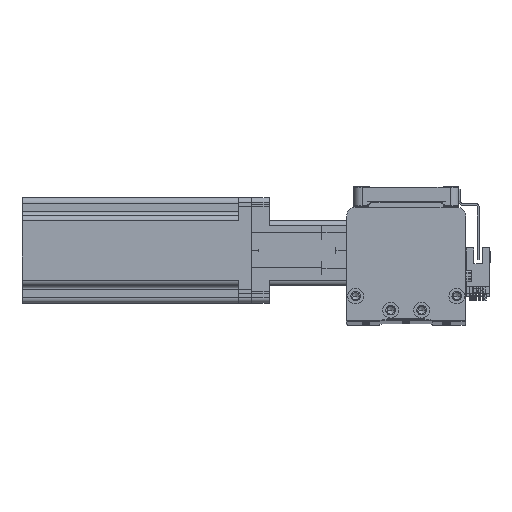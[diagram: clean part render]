
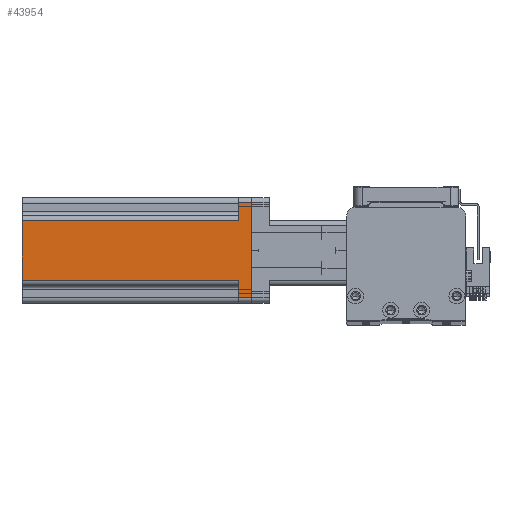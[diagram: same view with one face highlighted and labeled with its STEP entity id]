
A CAD part, top view. The second image highlights one B-rep face of the part: STEP entity #43954.
In plain terms, the highlighted planar face has unit normal (0, 0, 1) as drawn and (1, 0, 0) by its records, which use the part's own axes.
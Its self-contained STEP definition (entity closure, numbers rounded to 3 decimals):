
#40 = VECTOR ( 'NONE', #358, 1000. ) ;
#358 = DIRECTION ( 'NONE',  ( 0., 1., 0. ) ) ;
#460 = EDGE_CURVE ( 'NONE', #26507, #36172, #23060, .T. ) ;
#524 = ORIENTED_EDGE ( 'NONE', *, *, #40239, .T. ) ;
#611 = VECTOR ( 'NONE', #39378, 1000. ) ;
#1838 = VECTOR ( 'NONE', #13486, 1000. ) ;
#2252 = CARTESIAN_POINT ( 'NONE',  ( 30., -17., 7.5 ) ) ;
#2321 = VERTEX_POINT ( 'NONE', #11317 ) ;
#3872 = EDGE_CURVE ( 'NONE', #16893, #26507, #10671, .T. ) ;
#7240 = EDGE_CURVE ( 'NONE', #42394, #28748, #40258, .T. ) ;
#7437 = CARTESIAN_POINT ( 'NONE',  ( 30., -27., 7.5 ) ) ;
#8820 = DIRECTION ( 'NONE',  ( 0., 1., 0. ) ) ;
#10671 = LINE ( 'NONE', #12924, #611 ) ;
#10917 = CARTESIAN_POINT ( 'NONE',  ( 30., -30., 130.7 ) ) ;
#11317 = CARTESIAN_POINT ( 'NONE',  ( 30., 27., 0. ) ) ;
#11870 = LINE ( 'NONE', #47341, #1838 ) ;
#12235 = CARTESIAN_POINT ( 'NONE',  ( 30., 17., 130.7 ) ) ;
#12323 = EDGE_CURVE ( 'NONE', #21405, #16893, #46703, .T. ) ;
#12924 = CARTESIAN_POINT ( 'NONE',  ( 30., -30., 7.5 ) ) ;
#13486 = DIRECTION ( 'NONE',  ( 0., 1., 0. ) ) ;
#13888 = ORIENTED_EDGE ( 'NONE', *, *, #460, .T. ) ;
#14323 = VECTOR ( 'NONE', #8820, 1000. ) ;
#14757 = DIRECTION ( 'NONE',  ( 0., 0., 1. ) ) ;
#15414 = CARTESIAN_POINT ( 'NONE',  ( 30., 30., 7.5 ) ) ;
#15670 = EDGE_CURVE ( 'NONE', #2321, #28748, #15671, .T. ) ;
#15671 = LINE ( 'NONE', #26298, #46989 ) ;
#16893 = VERTEX_POINT ( 'NONE', #2252 ) ;
#17259 = LINE ( 'NONE', #39850, #36216 ) ;
#17466 = CARTESIAN_POINT ( 'NONE',  ( 30., 17., 7.5 ) ) ;
#17575 = ORIENTED_EDGE ( 'NONE', *, *, #20445, .F. ) ;
#20398 = VERTEX_POINT ( 'NONE', #12235 ) ;
#20445 = EDGE_CURVE ( 'NONE', #21405, #20398, #34444, .T. ) ;
#21013 = DIRECTION ( 'NONE',  ( 0., 0., 1. ) ) ;
#21405 = VERTEX_POINT ( 'NONE', #43628 ) ;
#22783 = DIRECTION ( 'NONE',  ( 0., 0., -1. ) ) ;
#23060 = LINE ( 'NONE', #45248, #43187 ) ;
#24089 = ORIENTED_EDGE ( 'NONE', *, *, #26873, .T. ) ;
#24982 = ORIENTED_EDGE ( 'NONE', *, *, #15670, .T. ) ;
#25426 = CARTESIAN_POINT ( 'NONE',  ( 30., 27., 7.5 ) ) ;
#26048 = CARTESIAN_POINT ( 'NONE',  ( 30., -17., 7.5 ) ) ;
#26252 = CARTESIAN_POINT ( 'NONE',  ( 30., -27., 0. ) ) ;
#26298 = CARTESIAN_POINT ( 'NONE',  ( 30., 27., 130.7 ) ) ;
#26453 = AXIS2_PLACEMENT_3D ( 'NONE', #10917, #37434, #14757 ) ;
#26507 = VERTEX_POINT ( 'NONE', #7437 ) ;
#26634 = VECTOR ( 'NONE', #29828, 1000. ) ;
#26873 = EDGE_CURVE ( 'NONE', #36172, #2321, #11870, .T. ) ;
#28748 = VERTEX_POINT ( 'NONE', #25426 ) ;
#29014 = ORIENTED_EDGE ( 'NONE', *, *, #12323, .T. ) ;
#29828 = DIRECTION ( 'NONE',  ( 0., 0., -1. ) ) ;
#34444 = LINE ( 'NONE', #35242, #14323 ) ;
#35242 = CARTESIAN_POINT ( 'NONE',  ( 30., -30., 130.7 ) ) ;
#36172 = VERTEX_POINT ( 'NONE', #26252 ) ;
#36216 = VECTOR ( 'NONE', #21013, 1000. ) ;
#37434 = DIRECTION ( 'NONE',  ( -1., 0., 0. ) ) ;
#37763 = DIRECTION ( 'NONE',  ( 0., 0., 1. ) ) ;
#38442 = FACE_OUTER_BOUND ( 'NONE', #42175, .T. ) ;
#39378 = DIRECTION ( 'NONE',  ( 0., -1., 0. ) ) ;
#39850 = CARTESIAN_POINT ( 'NONE',  ( 30., 17., 130.7 ) ) ;
#40239 = EDGE_CURVE ( 'NONE', #42394, #20398, #17259, .T. ) ;
#40258 = LINE ( 'NONE', #15414, #40 ) ;
#40837 = ORIENTED_EDGE ( 'NONE', *, *, #3872, .T. ) ;
#42175 = EDGE_LOOP ( 'NONE', ( #17575, #29014, #40837, #13888, #24089, #24982, #42609, #524 ) ) ;
#42394 = VERTEX_POINT ( 'NONE', #17466 ) ;
#42609 = ORIENTED_EDGE ( 'NONE', *, *, #7240, .F. ) ;
#43187 = VECTOR ( 'NONE', #22783, 1000. ) ;
#43628 = CARTESIAN_POINT ( 'NONE',  ( 30., -17., 130.7 ) ) ;
#43954 = ADVANCED_FACE ( 'NONE', ( #38442 ), #44860, .F. ) ;
#44860 = PLANE ( 'NONE',  #26453 ) ;
#45248 = CARTESIAN_POINT ( 'NONE',  ( 30., -27., 130.7 ) ) ;
#46703 = LINE ( 'NONE', #26048, #26634 ) ;
#46989 = VECTOR ( 'NONE', #37763, 1000. ) ;
#47341 = CARTESIAN_POINT ( 'NONE',  ( 30., -30., 0. ) ) ;
